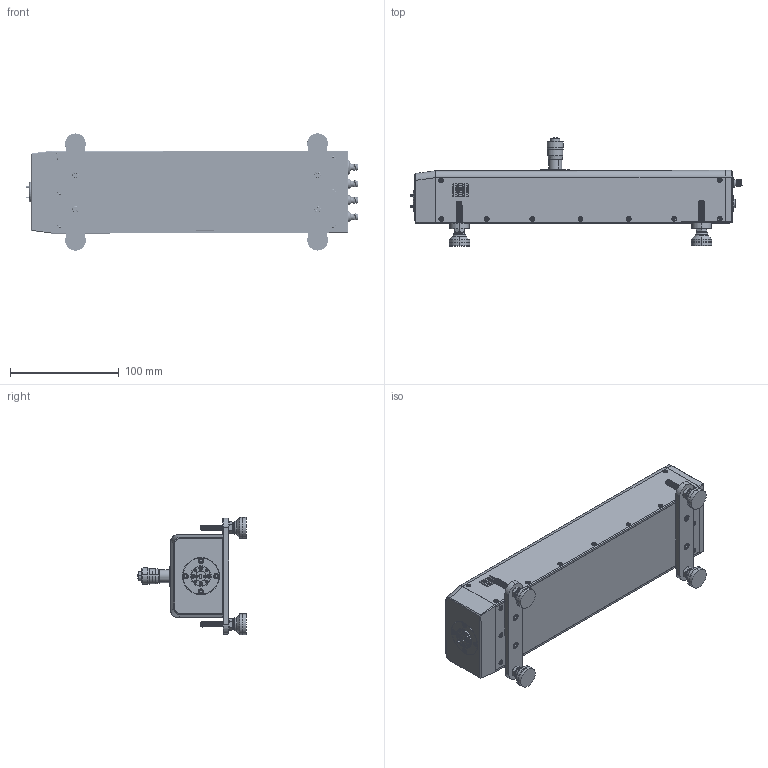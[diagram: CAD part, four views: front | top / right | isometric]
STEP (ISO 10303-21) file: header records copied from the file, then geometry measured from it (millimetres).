
FILE_DESCRIPTION (( 'STEP AP214' ), '1' );
FILE_NAME ('TO-SV-A-M, Defeatured.STEP', '2023-06-29T18:37:22', ( '' ), ( '' ), 'SwSTEP 2.0', 'SolidWorks 2021', '' );
FILE_SCHEMA (( 'AUTOMOTIVE_DESIGN' ));
Length unit declared in the file: inch
Products named in the file (1): TO-SV-A-M, Defeatured
Bounding box: 305.75 x 99.8 x 108.07 mm (x, y, z)
Volume: 1098939.2 mm3; surface area: 169897.8 mm2
Topology: 51 solids, 68 shells, 2554 faces, 6204 edges, 3885 vertices
Faces by surface type: cylinder 972, plane 933, cone 590, bspline 35, sphere 16, torus 8
Entity records: 136345 total; most frequent: CARTESIAN_POINT 46402, ORIENTED_EDGE 12136, DIRECTION 11635, EDGE_CURVE 6068, AXIS2_PLACEMENT_3D 4526, VERTEX_POINT 3861, EDGE_LOOP 2851, VECTOR 2583
